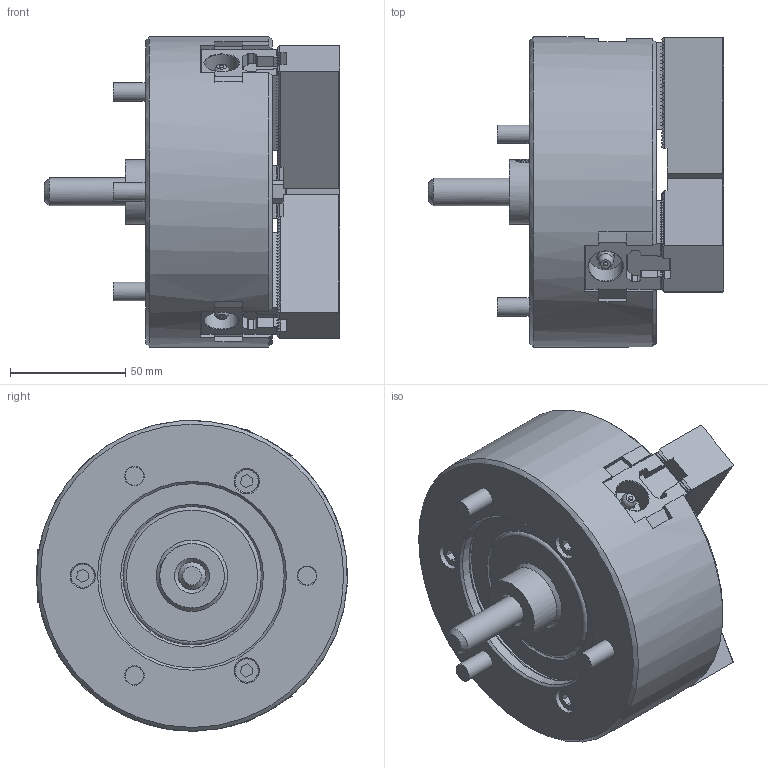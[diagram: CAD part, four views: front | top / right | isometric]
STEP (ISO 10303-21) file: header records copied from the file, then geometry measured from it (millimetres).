
FILE_DESCRIPTION (( 'STEP AP214' ), '1' );
FILE_NAME ('N-05_OC.STEP', '2020-01-23T06:39:20', ( '' ), ( '' ), 'SwSTEP 2.0', 'SolidWorks 2017', '' );
FILE_SCHEMA (( 'AUTOMOTIVE_DESIGN' ));
Length unit declared in the file: millimetre
Products named in the file (18): 俛傾僫僣僉 M8x22M8x22; 61P4008394 T僫僢僩b_g_棉太倌佱UA; P314573 ソフトジョー_W_‡_[_ﾃﾞﾌｫﾙﾄ_ATI≪UA; P314573 ソフトジョー_W_‡_[; N-05_OC; Part1^61Ｐ2121824 クミタテ~_^_e; 61P4008394 T僫僢僩b_g; Part1^61Ｐ2121824 クミタテ~_^_e_ﾃﾞﾌｫﾙﾄTI≪UA; 俛傾僫僣僉 M8x22M8x22_B迸路 M8X22M8X22
Assembly tree (13 placements, depth 2):
  俛傾僫僣僉 M8x22M8x22
  俛傾僫僣僉 M8x22M8x22
  P314573 ソフトジョー_W_‡_[
  P314573 ソフトジョー_W_‡_[
  N-05_OC
    P314573 ソフトジョー_W_‡_[_ﾃﾞﾌｫﾙﾄ_ATI≪UA  x3
    61P4008394 T僫僢僩b_g_棉太倌佱UA  x3
    俛傾僫僣僉 M8x22M8x22_B迸路 M8X22M8X22  x6
    Part1^61Ｐ2121824 クミタテ~_^_e_ﾃﾞﾌｫﾙﾄTI≪UA
Bounding box: 128.2 x 134.88 x 134.83 mm (x, y, z)
Volume: 851523.7 mm3; surface area: 123458.9 mm2
Topology: 13 solids, 19 shells, 1987 faces, 5632 edges, 3740 vertices
Faces by surface type: plane 1748, cylinder 172, cone 44, torus 16, sphere 6, bspline 1
Full cylindrical faces by diameter (mm): 1.9 x3, 6 x3, 8 x24, 8.3 x3, 8.4 x1, 8.5 x9, 10 x3, 11 x3, 12 x1, 13 x9, 13.5 x6, 14 x3, 15 x3, 28 x1, 80 x1, 81 x1, 135 x1
Entity records: 46322 total; most frequent: CARTESIAN_POINT 9273, ORIENTED_EDGE 7876, DIRECTION 7050, EDGE_CURVE 3938, LINE 3422, VECTOR 3422, VERTEX_POINT 2653, AXIS2_PLACEMENT_3D 1814
